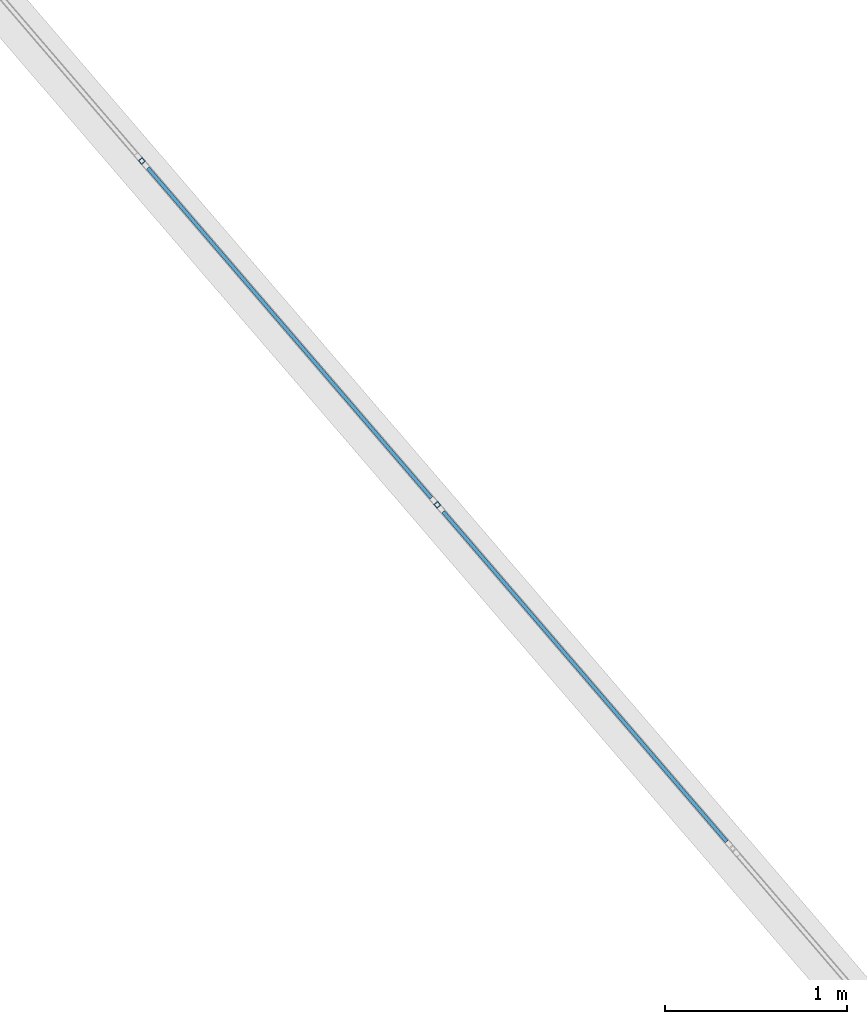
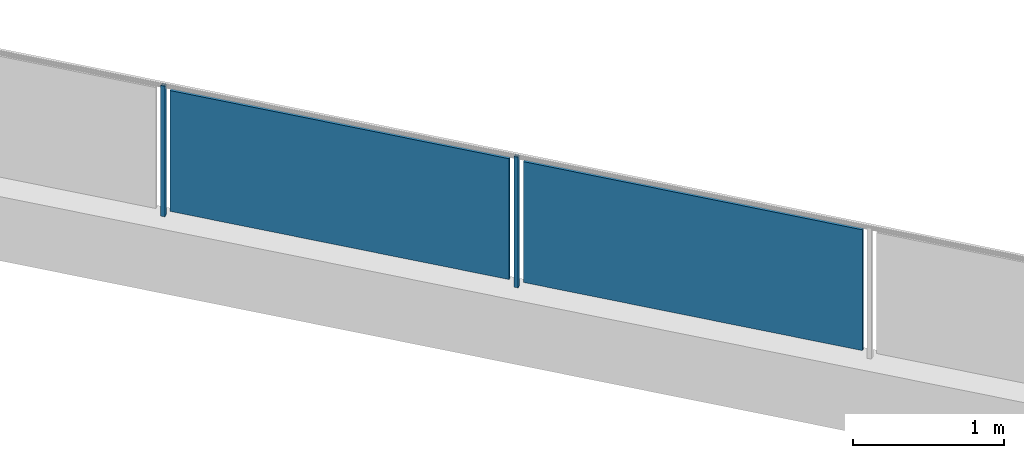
# One storey, part 46 of 75: 4 building element parts, 1 element without a shape of its own.
"""IFC4 building model written with IfcOpenShell, lengths in metres."""

from ifc_helpers import new_model, entity, si_unit, converted_unit, derived_unit, direction, frame, origin_with_axes, place, context, subcontext, project, spatial, polygons, material, type_object, element, aggregate, save


model = new_model("IFC4")

# Units and contexts
model_context = context("Model", 3, precision=1e-05, world=origin_with_axes(), true_north=direction((0.0, 1.0)))
body_context = subcontext(model_context, "Body", "Model", "MODEL_VIEW")
ifc_project = project(units=[si_unit("LENGTHUNIT", "METRE"), si_unit("AREAUNIT", "SQUARE_METRE"), si_unit("VOLUMEUNIT", "CUBIC_METRE"), converted_unit("PLANEANGLEUNIT", "DEGREE", entity("IfcPlaneAngleMeasure", 0.0174532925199), si_unit("PLANEANGLEUNIT", "RADIAN"), dimensions=[0, 0, 0, 0, 0, 0, 0]), converted_unit("TIMEUNIT", "Year", entity("IfcTimeMeasure", 31556926.0), si_unit("TIMEUNIT", "SECOND"), dimensions=[0, 0, 1, 0, 0, 0, 0]), si_unit("MASSUNIT", "GRAM", prefix="KILO"), si_unit("THERMODYNAMICTEMPERATUREUNIT", "DEGREE_CELSIUS"), si_unit("LUMINOUSINTENSITYUNIT", "LUMEN"), si_unit("ENERGYUNIT", "JOULE", prefix="MEGA"), derived_unit("THERMALCONDUCTANCEUNIT", [(si_unit("POWERUNIT", "WATT"), 1), (si_unit("LENGTHUNIT", "METRE"), -1), (si_unit("THERMODYNAMICTEMPERATUREUNIT", "KELVIN"), -1)]), derived_unit("SPECIFICHEATCAPACITYUNIT", [(si_unit("ENERGYUNIT", "JOULE"), 1), (si_unit("MASSUNIT", "GRAM", prefix="KILO"), -1), (si_unit("THERMODYNAMICTEMPERATUREUNIT", "KELVIN"), -1)]), derived_unit("MASSDENSITYUNIT", [(si_unit("MASSUNIT", "GRAM", prefix="KILO"), 1), (si_unit("VOLUMEUNIT", "CUBIC_METRE"), -1)])], contexts=[model_context])

# Site, building, storey
site_placement = place(None, frame((-0.00153261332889, -0.00661245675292, 0.0), z_axis=(0.0, 0.0, 1.0), x_axis=(1.0, 0.0, 0.0)))
site = spatial("IfcSite", under=ifc_project, at=site_placement, Name="Gelände", CompositionType="ELEMENT")
building_placement = place(site_placement, origin_with_axes())
building = spatial("IfcBuilding", under=site, at=building_placement, Name="Gebäude", CompositionType="ELEMENT")
storey_placement = place(building_placement, frame((0.0, 0.0, -0.22), z_axis=(0.0, 0.0, 1.0), x_axis=(1.0, 0.0, 0.0)))
storey = spatial("IfcBuildingStorey", under=building, at=storey_placement, Name="EG", CompositionType="ELEMENT", Elevation=-0.22)

# Railing, building element parts
railing_type = type_object("IfcRailingType", Name="Geländerart", PredefinedType="NOTDEFINED")
railing_placement = place(storey_placement, frame((-12.1608341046, 23.557810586, 0.523948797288), z_axis=(0.0, 0.0, 1.0), x_axis=(1.0, 0.0, 0.0)))
railing = element("IfcRailing", 1, at=railing_placement, inside=storey, type_object=railing_type, Name="Geländer - 001", PredefinedType="NOTDEFINED")
ifc_material_1 = material(Name="Zaun")
building_element_part_1_placement = place(railing_placement, origin_with_axes())
building_element_part_1 = element("IfcBuildingElementPart", 2, at=building_element_part_1_placement, material=ifc_material_1, Name="Zaun", PredefinedType="NOTDEFINED", context=body_context, shape_type="Tessellation", body=[
    polygons([(23.9657338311, 5.82597039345, 0.05), (25.5215560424, 4.01526784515, 0.05), (25.5215560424, 4.01526784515, 1.03), (23.9657338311, 5.82597039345, 1.03), (25.5367254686, 4.02830197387, 0.05), (23.9809032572, 5.83900452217, 0.05), (25.5367254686, 4.02830197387, 1.03), (23.9809032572, 5.83900452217, 1.03)], [[[1, 2, 3, 4]], [[5, 2, 1, 6]], [[7, 3, 2, 5]], [[4, 3, 7, 8]], [[1, 4, 8, 6]], [[7, 5, 6, 8]]], closed=True),
])
ifc_material_2 = material(Name="Aluminium")
building_element_part_2_placement = place(railing_placement, origin_with_axes())
building_element_part_2 = element("IfcBuildingElementPart", 3, at=building_element_part_2_placement, material=ifc_material_2, Name="Aluminium", PredefinedType="NOTDEFINED", context=body_context, shape_type="Tessellation", body=[
    polygons([(23.9423346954, 5.89156368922, 0.0), (23.9195805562, 5.87201249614, 0.0), (23.9195805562, 5.87201249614, 1.06), (23.9423346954, 5.89156368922, 1.06), (23.9618858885, 5.86880955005, 0.0), (23.9391317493, 5.84925835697, 0.0), (23.9418008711, 5.88451280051, 0.0), (23.9266314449, 5.87147867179, 0.0), (23.9396655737, 5.85630924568, 0.0), (23.9548349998, 5.8693433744, 0.0), (23.9391317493, 5.84925835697, 1.06), (23.9618858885, 5.86880955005, 1.06), (23.9418008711, 5.88451280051, 1.06), (23.9548349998, 5.8693433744, 1.06), (23.9396655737, 5.85630924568, 1.06), (23.9266314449, 5.87147867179, 1.06)], [[[1, 2, 3, 4]], [[1, 5, 6, 2], [7, 8, 9, 10]], [[2, 6, 11, 3]], [[4, 3, 11, 12], [13, 14, 15, 16]], [[5, 1, 4, 12]], [[6, 5, 12, 11]], [[8, 7, 13, 16]], [[9, 8, 16, 15]], [[10, 9, 15, 14]], [[7, 10, 14, 13]]], closed=True),
])
building_element_part_3_placement = place(railing_placement, origin_with_axes())
building_element_part_3 = element("IfcBuildingElementPart", 4, at=building_element_part_3_placement, material=ifc_material_1, Name="Zaun", PredefinedType="NOTDEFINED", context=body_context, shape_type="Tessellation", body=[
    polygons([(22.3447409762, 7.71252007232, 0.05), (23.9005631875, 5.90181752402, 0.05), (23.9005631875, 5.90181752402, 1.03), (22.3447409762, 7.71252007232, 1.03), (23.9157326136, 5.91485165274, 0.05), (22.3599104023, 7.72555420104, 0.05), (23.9157326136, 5.91485165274, 1.03), (22.3599104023, 7.72555420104, 1.03)], [[[1, 2, 3, 4]], [[5, 2, 1, 6]], [[7, 3, 2, 5]], [[4, 3, 7, 8]], [[1, 4, 8, 6]], [[7, 5, 6, 8]]], closed=True),
])
building_element_part_4_placement = place(railing_placement, origin_with_axes())
building_element_part_4 = element("IfcBuildingElementPart", 5, at=building_element_part_4_placement, material=ifc_material_2, Name="Aluminium", PredefinedType="NOTDEFINED", context=body_context, shape_type="Tessellation", body=[
    polygons([(22.3213418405, 7.77811336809, 0.0), (22.2985877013, 7.75856217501, 0.0), (22.2985877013, 7.75856217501, 1.06), (22.3213418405, 7.77811336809, 1.06), (22.3408930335, 7.75535922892, 0.0), (22.3181388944, 7.73580803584, 0.0), (22.3208080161, 7.77106247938, 0.0), (22.30563859, 7.75802835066, 0.0), (22.3186727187, 7.74285892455, 0.0), (22.3338421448, 7.75589305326, 0.0), (22.3181388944, 7.73580803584, 1.06), (22.3408930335, 7.75535922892, 1.06), (22.3208080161, 7.77106247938, 1.06), (22.3338421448, 7.75589305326, 1.06), (22.3186727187, 7.74285892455, 1.06), (22.30563859, 7.75802835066, 1.06)], [[[1, 2, 3, 4]], [[1, 5, 6, 2], [7, 8, 9, 10]], [[2, 6, 11, 3]], [[4, 3, 11, 12], [13, 14, 15, 16]], [[5, 1, 4, 12]], [[6, 5, 12, 11]], [[8, 7, 13, 16]], [[9, 8, 16, 15]], [[10, 9, 15, 14]], [[7, 10, 14, 13]]], closed=True),
])
aggregate(railing, [building_element_part_1, building_element_part_2, building_element_part_3, building_element_part_4])

save(model, "model.ifc")
